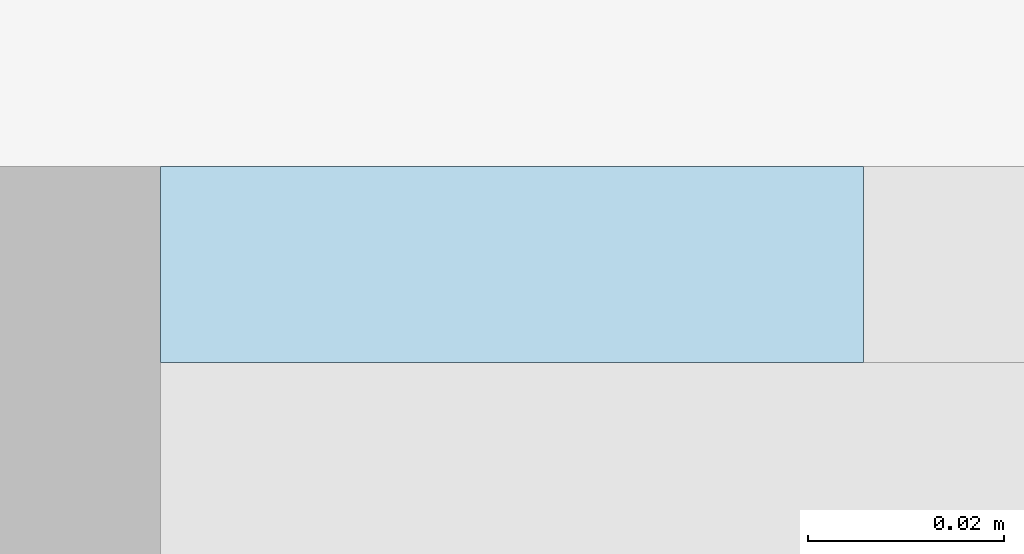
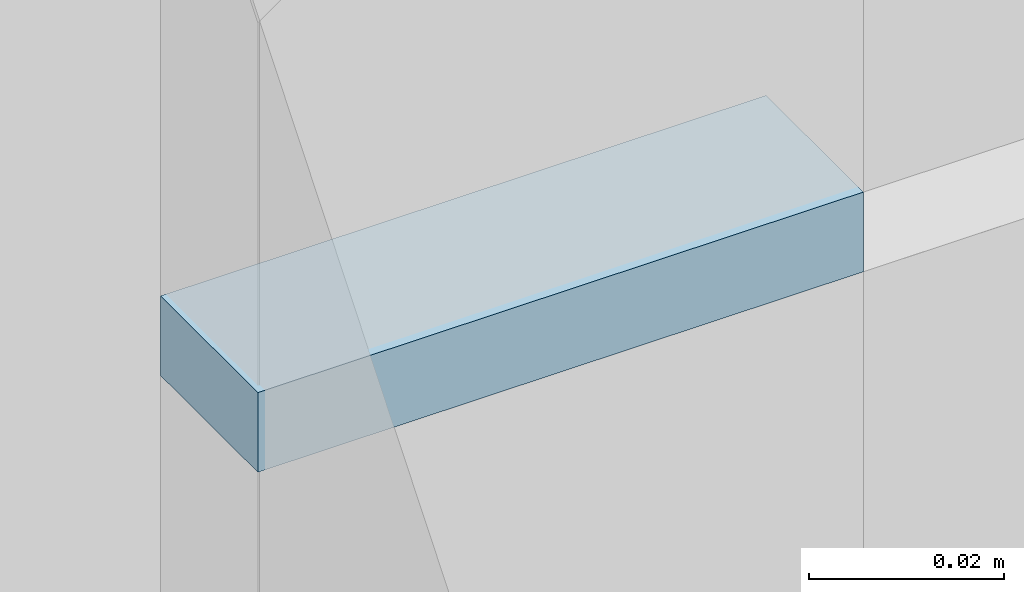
# One storey, part 46 of 73: 1 plate, 1 element without a shape of its own.
"""IFC2X3 building model written with IfcOpenShell, lengths in millimetres."""

from ifc_helpers import new_model, entity, si_unit, converted_unit, derived_unit, direction, frame, origin, origin_2d_with_axis, place, context, subcontext, project, spatial, rectangle, extrude, source, transform, mapped, material, layer, layer_set, layer_usage, type_object, type_shapes, element, aggregate, save


model = new_model("IFC2X3")

# Units and contexts
model_context = context("Model", 3, precision=0.01, world=origin(), true_north=direction((6.12303176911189e-17, 1.0)))
body_context = subcontext(model_context, "Body", "Model", "MODEL_VIEW")
ifc_project = project(units=[si_unit("LENGTHUNIT", "METRE", prefix="MILLI"), si_unit("AREAUNIT", "SQUARE_METRE"), si_unit("VOLUMEUNIT", "CUBIC_METRE"), converted_unit("PLANEANGLEUNIT", "DEGREE", entity("IfcRatioMeasure", 0.0174532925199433), si_unit("PLANEANGLEUNIT", "RADIAN"), dimensions=[0, 0, 0, 0, 0, 0, 0]), si_unit("MASSUNIT", "GRAM", prefix="KILO"), derived_unit("MASSDENSITYUNIT", [(si_unit("MASSUNIT", "GRAM", prefix="KILO"), 1), (si_unit("LENGTHUNIT", "METRE"), -3)]), si_unit("TIMEUNIT", "SECOND"), si_unit("FREQUENCYUNIT", "HERTZ"), si_unit("THERMODYNAMICTEMPERATUREUNIT", "DEGREE_CELSIUS"), derived_unit("THERMALTRANSMITTANCEUNIT", [(si_unit("MASSUNIT", "GRAM", prefix="KILO"), 1), (si_unit("THERMODYNAMICTEMPERATUREUNIT", "KELVIN"), -1), (si_unit("TIMEUNIT", "SECOND"), -3)]), derived_unit("VOLUMETRICFLOWRATEUNIT", [(si_unit("LENGTHUNIT", "METRE"), 3), (si_unit("TIMEUNIT", "SECOND"), -1)]), si_unit("ELECTRICCURRENTUNIT", "AMPERE"), si_unit("ELECTRICVOLTAGEUNIT", "VOLT"), si_unit("POWERUNIT", "WATT"), si_unit("FORCEUNIT", "NEWTON", prefix="KILO"), si_unit("ILLUMINANCEUNIT", "LUX"), si_unit("LUMINOUSFLUXUNIT", "LUMEN"), si_unit("LUMINOUSINTENSITYUNIT", "CANDELA"), derived_unit("USERDEFINED", [(si_unit("MASSUNIT", "GRAM", prefix="KILO"), -1), (si_unit("LENGTHUNIT", "METRE"), -2), (si_unit("TIMEUNIT", "SECOND"), 3), (si_unit("LUMINOUSFLUXUNIT", "LUMEN"), 1)]), derived_unit("LINEARVELOCITYUNIT", [(si_unit("LENGTHUNIT", "METRE"), 1), (si_unit("TIMEUNIT", "SECOND"), -1)]), si_unit("PRESSUREUNIT", "PASCAL"), derived_unit("USERDEFINED", [(si_unit("LENGTHUNIT", "METRE"), -2), (si_unit("MASSUNIT", "GRAM", prefix="KILO"), 1), (si_unit("TIMEUNIT", "SECOND"), -2)])], contexts=[model_context])

# Site, building, storey
site_placement = place(None, frame((-151.875543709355, 2715.0, 0.0)))
site = spatial("IfcSite", under=ifc_project, at=site_placement, Name="Surface", CompositionType="ELEMENT")
building_placement = place(site_placement, origin())
building = spatial("IfcBuilding", under=site, at=building_placement, CompositionType="ELEMENT")
storey_placement = place(building_placement, frame((0.0, 0.0, 6730.43000000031)))
storey = spatial("IfcBuildingStorey", under=building, at=storey_placement, Name="3 korrus", CompositionType="ELEMENT", Elevation=6730.43000000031)

# Curtain wall, plate
curtain_wall_type = type_object("IfcCurtainWallType", Name="Curtain Wall:Klaassein KLS-18", PredefinedType="NOTDEFINED")
curtain_wall_placement = place(storey_placement, frame((0.0, 0.0, -6730.43000000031)))
curtain_wall = element("IfcCurtainWall", 1, at=curtain_wall_placement, inside=storey, type_object=curtain_wall_type, Name="Curtain Wall:Klaassein KLS-18", ObjectType="Curtain Wall:Klaassein KLS-18")
ifc_material = material(Name="<Unnamed>")
ifc_layer = layer(ifc_material, 20.0)
ifc_layer_set = layer_set([ifc_layer], Name="Curtain Wall:Klaassein KLS-01")
ifc_layer_usage = layer_usage(ifc_layer_set, "AXIS3", "POSITIVE", 0.0)
plate_type = type_object("IfcPlateType", Name="Glazed", PredefinedType="CURTAIN_PANEL", material=ifc_layer_set)
shared_shape = source(origin(), body_context, "Body", "SweptSolid", [
    extrude(rectangle(XDim=20.0, YDim=71.8553832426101, at=origin_2d_with_axis()), frame((0.0, 0.0, 0.0), z_axis=(0.0, 0.0, 1.0), x_axis=(0.0, 1.0, 0.0)), (0.0, 0.0, 1.0), 9.99999999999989),
])
type_shapes(plate_type, [shared_shape])
plate_placement = place(curtain_wall_placement, frame((15553.4924180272, 4355.04493399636, 8820.43000000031)))
plate = element("IfcPlate", 2, at=plate_placement, type_object=plate_type, material=ifc_layer_usage, Name="System Panel:Glazed", ObjectType="Glazed", context=body_context, shape_type="MappedRepresentation", body=[
    mapped(shared_shape, transform((0.0, 0.0, 0.0), scale=1.0)),
])
aggregate(curtain_wall, [plate])

save(model, "model.ifc")
